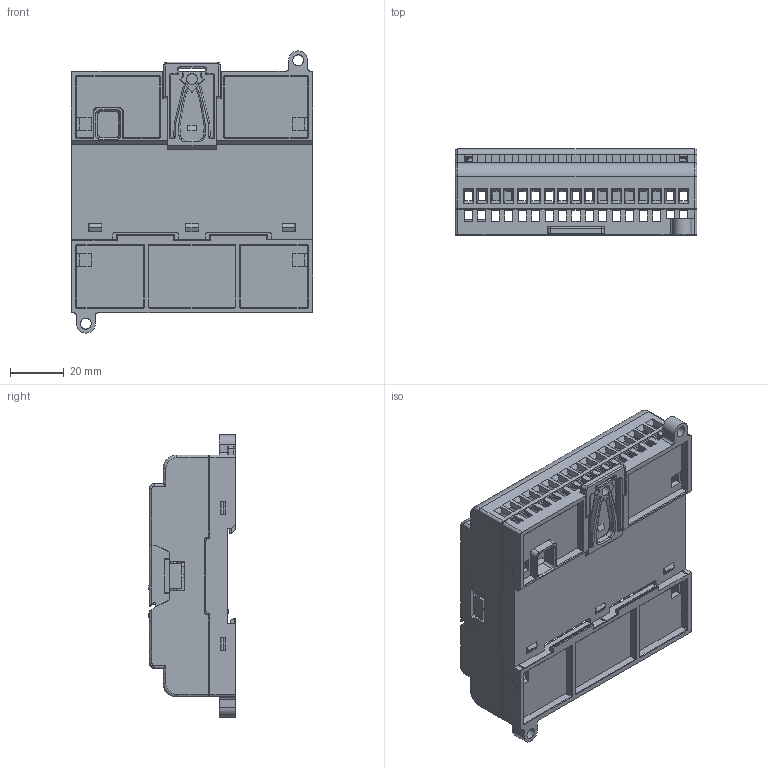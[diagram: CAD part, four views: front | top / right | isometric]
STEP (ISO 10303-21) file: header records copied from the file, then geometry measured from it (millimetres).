
FILE_DESCRIPTION(/* description */ (''),/* implementation_level */ '2;1');
FILE_NAME(/* name */ 'b1-24m-slim-20210609',/* time_stamp */ '2021-12-10T04:12:21+08:00',/* author */ (''),/* organization */ (''),/* preprocessor_version */ 'ST-DEVELOPER v16.5',/* originating_system */ '',/* authorisation */ '');
FILE_SCHEMA (('AUTOMOTIVE_DESIGN'));
Length unit declared in the file: millimetre
Products named in the file (6): Document; JOIN; B1-NEW-24M-DOWN_COVER; CV_PS; B1-24M-IO2_COVER; B1-NEW-24M-UP_COVER
Assembly tree (5 placements, depth 2):
  Document
    JOIN
    B1-NEW-24M-DOWN_COVER
    CV_PS
    B1-24M-IO2_COVER
    B1-NEW-24M-UP_COVER
Bounding box: 90 x 32.15 x 104.99 mm (x, y, z)
Volume: 27717.7 mm3; surface area: 71624.7 mm2
Topology: 4 solids, 5 shells, 2155 faces, 6328 edges, 4042 vertices
Faces by surface type: plane 1583, bspline 572
Entity records: 77503 total; most frequent: CARTESIAN_POINT 36902, ORIENTED_EDGE 12648, EDGE_CURVE 6328, B_SPLINE_CURVE_WITH_KNOTS 5485, VERTEX_POINT 4042, EDGE_LOOP 2486, ADVANCED_FACE 2155, FACE_OUTER_BOUND 2155
